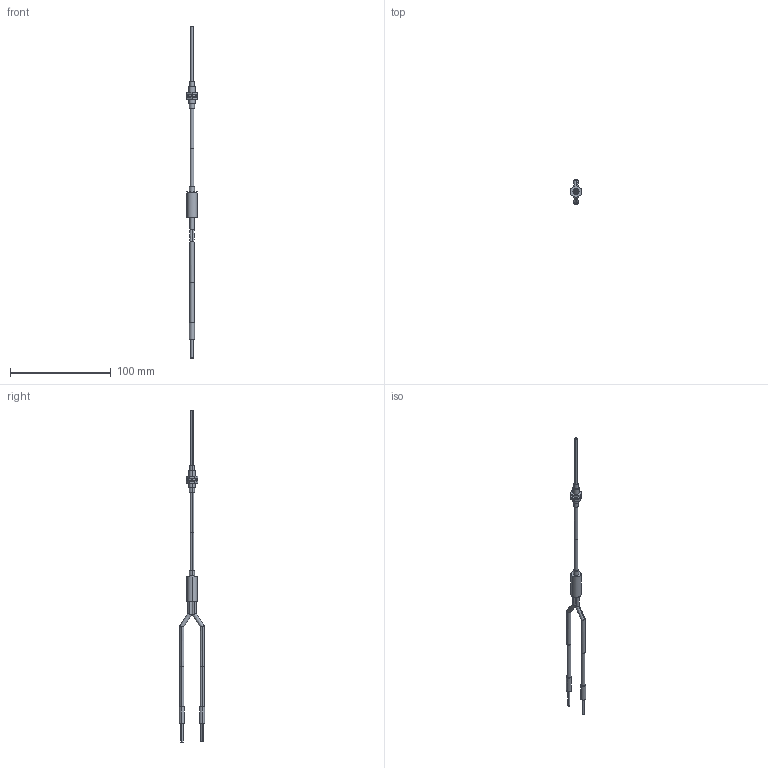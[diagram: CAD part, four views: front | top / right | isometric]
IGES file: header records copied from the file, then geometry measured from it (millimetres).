
Start section: SolidWorks IGES FILE using analytic representation for surfaces
Global section: file name: \\intra-srv04\開発データ\CAD_Data\CAD委員会\3D電子ｶﾀﾛｸﾞ\製品カタログ（新）\0_IGES\FD-H35-M2S6.IGS,41HSolidWorks 2004; native system: by SolidWorks Corporation; preprocessor: Version 5.3; author: mf1158; date: 050908.105613; units: millimetre
Bounding box: 11 x 25 x 330 mm (x, y, z)
Volume: 7720.5 mm3; surface area: 7144.1 mm2
Topology: 7 solids, 7 shells, 89 faces, 186 edges, 124 vertices
Faces by surface type: revolution 50, plane 39
